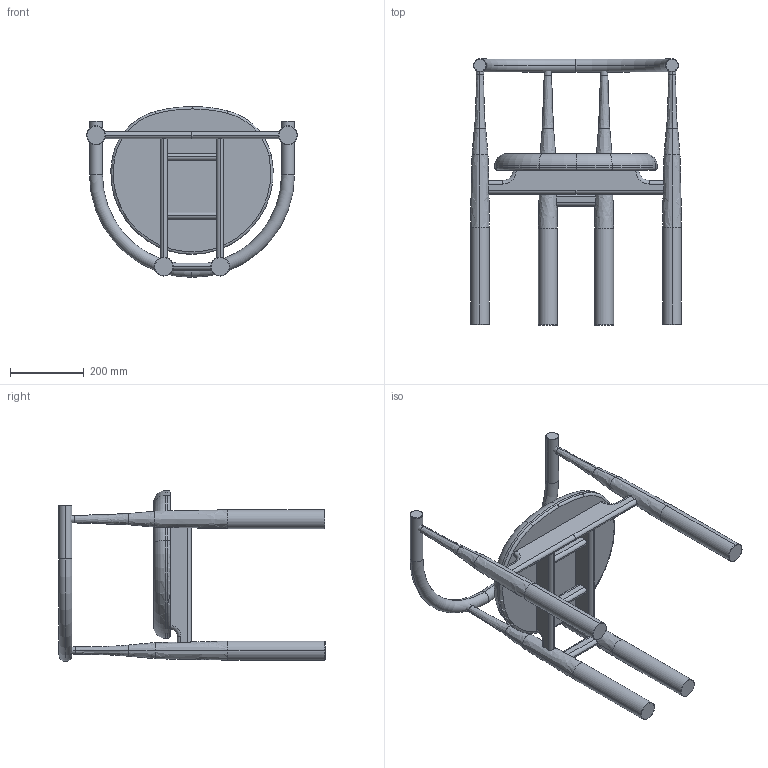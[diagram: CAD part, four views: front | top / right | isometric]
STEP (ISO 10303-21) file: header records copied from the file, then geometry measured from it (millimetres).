
FILE_DESCRIPTION (( 'STEP AP214' ), '1' );
FILE_NAME ('418 Bukowski, upholstered.STEP', '2022-09-05T08:13:53', ( '' ), ( '' ), 'SwSTEP 2.0', 'SolidWorks 2021', '' );
FILE_SCHEMA (( 'AUTOMOTIVE_DESIGN' ));
Length unit declared in the file: millimetre
Products named in the file (11): 418 9005; 418 9004(V); 418 9003; 418 9009; 418 9001N; 418 9002; 418 9004(R); 418 9007N4; 418 9008; 418 Bukowski, upholstered
Assembly tree (12 placements, depth 2):
  418 Bukowski, upholstered
    418 9001N
    418 9003
    418 9003
    418 9002  x2
    418 9004(R)
    418 9004(V)
    418 9005
    418 9007N4
    418 9008
    418 9009  x2
Bounding box: 571 x 720.5 x 462.83 mm (x, y, z)
Volume: 12654870.3 mm3; surface area: 1057681.8 mm2
Topology: 12 solids, 12 shells, 197 faces, 436 edges, 267 vertices
Faces by surface type: cylinder 82, plane 57, torus 34, bspline 24
Entity records: 6279 total; most frequent: CARTESIAN_POINT 1949, DIRECTION 867, ORIENTED_EDGE 784, EDGE_CURVE 392, AXIS2_PLACEMENT_3D 368, VERTEX_POINT 238, CIRCLE 199, EDGE_LOOP 182
